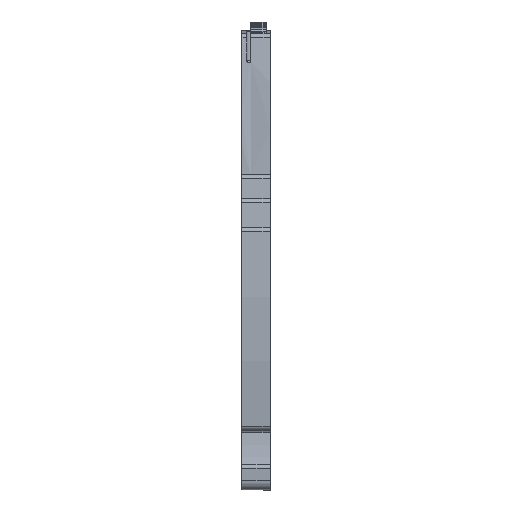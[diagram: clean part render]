
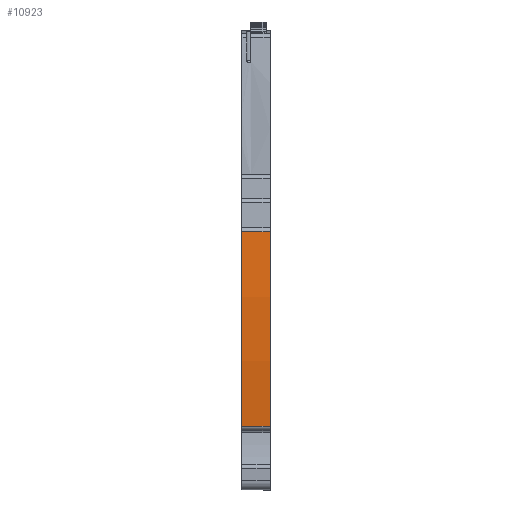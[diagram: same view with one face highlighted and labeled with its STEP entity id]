
A CAD part, front view. The second image highlights one B-rep face of the part: STEP entity #10923.
In plain terms, the highlighted cylindrical face has radius 202 mm (diameter 404 mm), a partial arc.
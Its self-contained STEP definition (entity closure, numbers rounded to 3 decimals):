
#1580=AXIS2_PLACEMENT_3D('Circle Axis2P3D',#1578,#1579,$) ;
#2927=AXIS2_PLACEMENT_3D('Circle Axis2P3D',#2925,#2926,$) ;
#10915=AXIS2_PLACEMENT_3D('Cylinder Axis2P3D',#10912,#10913,#10914) ;
#1575=CARTESIAN_POINT('Vertex',(0.,1.531,13.327)) ;
#1578=CARTESIAN_POINT('Axis2P3D Location',(0.,202.,38.15)) ;
#1582=CARTESIAN_POINT('Vertex',(0.,0.609,53.828)) ;
#2494=CARTESIAN_POINT('Line Origine',(1.94,0.609,53.828)) ;
#2498=CARTESIAN_POINT('Vertex',(5.95,0.609,53.828)) ;
#2925=CARTESIAN_POINT('Axis2P3D Location',(5.95,202.,38.15)) ;
#2929=CARTESIAN_POINT('Vertex',(5.95,1.531,13.327)) ;
#10899=CARTESIAN_POINT('Line Origine',(2.39,1.531,13.327)) ;
#10912=CARTESIAN_POINT('Axis2P3D Location',(2.55,202.,38.15)) ;
#1579=DIRECTION('Axis2P3D Direction',(1.,0.,0.)) ;
#2495=DIRECTION('Vector Direction',(1.,0.,0.)) ;
#2926=DIRECTION('Axis2P3D Direction',(1.,0.,0.)) ;
#10900=DIRECTION('Vector Direction',(1.,0.,0.)) ;
#10913=DIRECTION('Axis2P3D Direction',(1.,0.,0.)) ;
#10914=DIRECTION('Axis2P3D XDirection',(0.,-0.997,0.082)) ;
#2496=VECTOR('Line Direction',#2495,1.) ;
#10901=VECTOR('Line Direction',#10900,1.) ;
#10918=ORIENTED_EDGE('',*,*,#10903,.F.) ;
#10919=ORIENTED_EDGE('',*,*,#2931,.F.) ;
#10920=ORIENTED_EDGE('',*,*,#2500,.T.) ;
#10921=ORIENTED_EDGE('',*,*,#1584,.T.) ;
#10923=ADVANCED_FACE('KLEMME',(#10922),#10916,.T.) ;
#1581=CIRCLE('generated circle',#1580,202.) ;
#2928=CIRCLE('generated circle',#2927,202.) ;
#10916=CYLINDRICAL_SURFACE('generated cylinder',#10915,202.) ;
#1584=EDGE_CURVE('',#1583,#1576,#1581,.T.) ;
#2500=EDGE_CURVE('',#2499,#1583,#2497,.F.) ;
#2931=EDGE_CURVE('',#2499,#2930,#2928,.T.) ;
#10903=EDGE_CURVE('',#2930,#1576,#10902,.F.) ;
#10917=EDGE_LOOP('',(#10918,#10919,#10920,#10921)) ;
#10922=FACE_OUTER_BOUND('',#10917,.T.) ;
#2497=LINE('Line',#2494,#2496) ;
#10902=LINE('Line',#10899,#10901) ;
#1576=VERTEX_POINT('',#1575) ;
#1583=VERTEX_POINT('',#1582) ;
#2499=VERTEX_POINT('',#2498) ;
#2930=VERTEX_POINT('',#2929) ;
